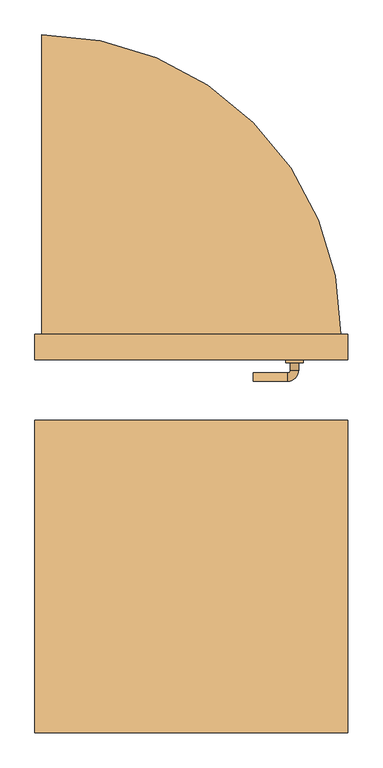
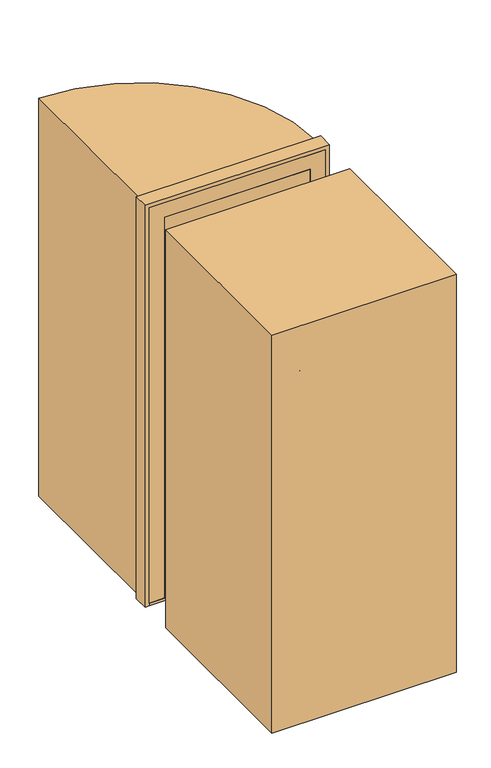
"""IFC4 building model written with IfcOpenShell, lengths in millimetres: door geometry, Дверь_Противопожарная_Металлическая_Однопольная_Глухая : 910 х 2100(h)_Пр_EI30."""

from ifc_helpers import new_model, si_unit, point, frame, frame_2d, origin, origin_with_axes, place, context, project, spatial, polyline, circle_curve, ellipse_curve, trimmed, segment, composite_curve, outline, extrude, source, transform, mapped, element, save
from ifc_brep_helpers import plane_surface, cylinder_surface, revolved_surface, advanced_brep


def door_7db46ef5(model_context):
    return source(origin(), model_context, "Body", "SolidModel", [
        extrude(outline(composite_curve([segment(trimmed(circle_curve(frame_2d((-435.0, 125.0)), 870.0), [point((-435.0, 995.0))], [point((435.0, 125.0))], False, "CARTESIAN"), True, "CONTINUOUS"), segment(polyline([(435.0, 125.0), (-435.0, 125.0), (-435.0, 995.0)]), True, "CONTINUOUS")], self_intersect=False)), origin_with_axes(), (0.0, 0.0, 1.0), 2080.0),
        extrude(outline(polyline([(-455.0, -1035.0), (-455.0, -125.0), (455.0, -125.0), (455.0, -1035.0), (-455.0, -1035.0)])), origin_with_axes(), (0.0, 0.0, 1.0), 2080.0),
        advanced_brep(
        [(180.0, 187.0, 1000.0), (180.0, 163.0, 1000.0), (280.0, 163.0, 1000.0), (280.0, 187.0, 1000.0), (288.0, 155.0, 1000.0), (312.0, 155.0, 1000.0), (312.0, 20.0, 1000.0), (312.0, 42.0, 1000.0), (288.0, 42.0, 1000.0), (288.0, 20.0, 1000.0), (288.0, 133.0, 1000.0), (312.0, 133.0, 1000.0), (280.0, 12.0, 1000.0), (280.0, -12.0, 1000.0), (180.0, -12.0, 1000.0), (180.0, 12.0, 1000.0), (325.0, 133.0, 1000.0), (275.0, 133.0, 1000.0), (325.0, 42.0, 1000.0), (275.0, 42.0, 1000.0)],
        [
            (0, 1, circle_curve(frame((180.0, 175.0, 1000.0), z_axis=(-1.0, 0.0, 0.0), x_axis=(0.0, -1.0, 0.0)), 12.0)),
            (1, 0, circle_curve(frame((180.0, 175.0, 1000.0), z_axis=(-1.0, 0.0, 0.0), x_axis=(0.0, -1.0, 0.0)), 12.0)),
            (1, 2),
            (2, 3, circle_curve(frame((280.0, 175.0, 1000.0), z_axis=(-1.0, 0.0, 0.0), x_axis=(0.0, -1.0, 0.0)), 12.0)),
            (3, 0),
            (3, 2, circle_curve(frame((280.0, 175.0, 1000.0), z_axis=(-1.0, 0.0, 0.0), x_axis=(0.0, -1.0, 0.0)), 12.0)),
            (2, 4, circle_curve(frame((280.0, 155.0, 1000.0), z_axis=(0.0, 0.0, -1.0), x_axis=(0.0, 1.0, 0.0)), 8.0)),
            (4, 5, circle_curve(frame((300.0, 155.0, 1000.0), z_axis=(0.0, 1.0, 0.0), x_axis=(-1.0, 0.0, 0.0)), 12.0)),
            (5, 3, circle_curve(frame((280.0, 155.0, 1000.0), z_axis=(0.0, 0.0, 1.0), x_axis=(0.0, 1.0, 0.0)), 32.0)),
            (5, 4, circle_curve(frame((300.0, 155.0, 1000.0), z_axis=(0.0, 1.0, 0.0), x_axis=(-1.0, 0.0, 0.0)), 12.0)),
            (6, 7),
            (7, 8, circle_curve(frame((300.0, 42.0, 1000.0), z_axis=(0.0, -1.0, 0.0), x_axis=(-1.0, 0.0, 0.0)), 12.0)),
            (8, 9),
            (9, 6, circle_curve(frame((300.0, 20.0, 1000.0), z_axis=(0.0, 1.0, 0.0), x_axis=(-1.0, 0.0, 0.0)), 12.0)),
            (4, 10),
            (10, 11, circle_curve(frame((300.0, 133.0, 1000.0), z_axis=(0.0, 1.0, 0.0), x_axis=(-1.0, 0.0, 0.0)), 12.0)),
            (11, 5),
            (11, 10, circle_curve(frame((300.0, 133.0, 1000.0), z_axis=(0.0, 1.0, 0.0), x_axis=(-1.0, 0.0, 0.0)), 12.0)),
            (8, 7, circle_curve(frame((300.0, 42.0, 1000.0), z_axis=(0.0, -1.0, 0.0), x_axis=(-1.0, 0.0, 0.0)), 12.0)),
            (6, 9, circle_curve(frame((300.0, 20.0, 1000.0), z_axis=(0.0, 1.0, 0.0), x_axis=(-1.0, 0.0, 0.0)), 12.0)),
            (9, 12, circle_curve(frame((280.0, 20.0, 1000.0), z_axis=(0.0, 0.0, -1.0), x_axis=(1.0, 0.0, 0.0)), 8.0)),
            (12, 13, circle_curve(frame((280.0, 0.0, 1000.0), z_axis=(1.0, 0.0, 0.0), x_axis=(0.0, 1.0, 0.0)), 12.0)),
            (13, 6, circle_curve(frame((280.0, 20.0, 1000.0), z_axis=(0.0, 0.0, 1.0), x_axis=(1.0, 0.0, 0.0)), 32.0)),
            (13, 12, circle_curve(frame((280.0, 0.0, 1000.0), z_axis=(1.0, 0.0, 0.0), x_axis=(0.0, 1.0, 0.0)), 12.0)),
            (14, 15, circle_curve(frame((180.0, 0.0, 1000.0), z_axis=(-1.0, 0.0, 0.0), x_axis=(0.0, 1.0, 0.0)), 12.0)),
            (15, 14, circle_curve(frame((180.0, 0.0, 1000.0), z_axis=(-1.0, 0.0, 0.0), x_axis=(0.0, 1.0, 0.0)), 12.0)),
            (12, 15),
            (14, 13),
            (16, 17, circle_curve(frame((300.0, 133.0, 1000.0), z_axis=(0.0, 1.0, 0.0), x_axis=(-1.0, 0.0, 0.0)), 25.0)),
            (17, 16, circle_curve(frame((300.0, 133.0, 1000.0), z_axis=(0.0, 1.0, 0.0), x_axis=(-1.0, 0.0, 0.0)), 25.0)),
            (18, 19, circle_curve(frame((300.0, 42.0, 1000.0), z_axis=(0.0, -1.0, 0.0), x_axis=(-1.0, 0.0, 0.0)), 25.0)),
            (19, 18, circle_curve(frame((300.0, 42.0, 1000.0), z_axis=(0.0, -1.0, 0.0), x_axis=(-1.0, 0.0, 0.0)), 25.0)),
            (16, 18),
            (19, 17),
        ],
        [
            plane_surface(frame((180.0, 175.0, 1000.0), z_axis=(-1.0, 0.0, 0.0), x_axis=(0.0, 0.0, 1.0))),
            cylinder_surface(frame((180.0, 175.0, 1000.0), z_axis=(-1.0, 0.0, 0.0), x_axis=(0.0, -1.0, 0.0)), 12.0),
            revolved_surface(trimmed(ellipse_curve(frame((280.0, 175.0, 1000.0), z_axis=(1.0, 0.0, 0.0), x_axis=(0.0, -1.0, 0.0)), 12.0, 12.0), [point((280.0, 187.0, 1000.0))], [point((280.0, 163.0, 1000.0))], True, "CARTESIAN"), (280.0, 155.0, 1000.0), (0.0, 0.0, 1.0)),
            revolved_surface(trimmed(ellipse_curve(frame((280.0, 175.0, 1000.0), z_axis=(1.0, 0.0, 0.0), x_axis=(0.0, -1.0, 0.0)), 12.0, 12.0), [point((280.0, 163.0, 1000.0))], [point((280.0, 187.0, 1000.0))], True, "CARTESIAN"), (280.0, 155.0, 1000.0), (0.0, 0.0, 1.0)),
            cylinder_surface(frame((300.0, 155.0, 1000.0), z_axis=(0.0, 1.0, 0.0), x_axis=(-1.0, 0.0, 0.0)), 12.0),
            revolved_surface(trimmed(ellipse_curve(frame((300.0, 20.0, 1000.0), z_axis=(0.0, -1.0, 0.0), x_axis=(-1.0, 0.0, 0.0)), 12.0, 12.0), [point((312.0, 20.0, 1000.0))], [point((288.0, 20.0, 1000.0))], True, "CARTESIAN"), (280.0, 20.0, 1000.0), (0.0, 0.0, 1.0)),
            revolved_surface(trimmed(ellipse_curve(frame((300.0, 20.0, 1000.0), z_axis=(0.0, -1.0, 0.0), x_axis=(-1.0, 0.0, 0.0)), 12.0, 12.0), [point((288.0, 20.0, 1000.0))], [point((312.0, 20.0, 1000.0))], True, "CARTESIAN"), (280.0, 20.0, 1000.0), (0.0, 0.0, 1.0)),
            plane_surface(frame((180.0, 0.0, 1000.0), z_axis=(-1.0, 0.0, 0.0), x_axis=(0.0, 0.0, 1.0))),
            cylinder_surface(frame((280.0, 0.0, 1000.0), z_axis=(1.0, 0.0, 0.0), x_axis=(0.0, 1.0, 0.0)), 12.0),
            plane_surface(frame((275.0, 133.0, 1000.0), z_axis=(0.0, 1.0, 0.0), x_axis=(0.0, 0.0, -1.0))),
            plane_surface(frame((275.0, 42.0, 1000.0), z_axis=(0.0, -1.0, 0.0), x_axis=(0.0, 0.0, 1.0))),
            cylinder_surface(frame((300.0, 133.0, 1000.0), z_axis=(0.0, -1.0, 0.0), x_axis=(-1.0, 0.0, 0.0)), 25.0),
        ],
        [
            (0, [[1, 2]]),
            (1, [[3, 4, 5, -2]]),
            (1, [[-5, 6, -3, -1]]),
            (2, [[7, 8, 9, -4]]),
            (3, [[-9, 10, -7, -6]]),
            (4, [[11, 12, 13, 14]]),
            (4, [[15, 16, 17, -8]]),
            (4, [[-17, 18, -15, -10]]),
            (4, [[-13, 19, -11, 20]]),
            (5, [[21, 22, 23, -14]]),
            (6, [[-23, 24, -21, -20]]),
            (7, [[25, 26]]),
            (8, [[27, -25, 28, -22]]),
            (8, [[-28, -26, -27, -24]]),
            (9, [[29, 30], [-18, -16]]),
            (10, [[31, 32], [-19, -12]]),
            (11, [[33, -32, 34, -29]]),
            (11, [[-34, -31, -33, -30]]),
        ],
    ),
        extrude(outline(composite_curve([segment(trimmed(circle_curve(frame_2d((900.0, 300.0)), 25.0), [point((900.0, 325.0))], [point((900.0, 275.0))], False, "CARTESIAN"), True, "CONTINUOUS"), segment(trimmed(circle_curve(frame_2d((900.0, 300.0)), 25.0), [point((900.0, 275.0))], [point((900.0, 325.0))], False, "CARTESIAN"), True, "CONTINUOUS")], self_intersect=False)), frame((0.0, 42.0, 0.0), z_axis=(0.0, 1.0, 0.0), x_axis=(0.0, 0.0, 1.0)), (0.0, 0.0, 1.0), 91.0),
        extrude(outline(polyline([(15.0, -435.0), (15.0, -360.0), (2005.0, -360.0), (2005.0, 360.0), (15.0, 360.0), (15.0, 435.0), (2080.0, 435.0), (2080.0, -435.0), (15.0, -435.0)])), frame((0.0, 50.0, 0.0), z_axis=(0.0, 1.0, 0.0), x_axis=(0.0, 0.0, 1.0)), (0.0, 0.0, 1.0), 75.0),
        extrude(outline(polyline([(0.0, 455.0), (2100.0, 455.0), (2100.0, -455.0), (0.0, -455.0), (0.0, -435.0), (2080.0, -435.0), (2080.0, 435.0), (0.0, 435.0), (0.0, 455.0)])), frame((0.0, 50.0, 0.0), z_axis=(0.0, 1.0, 0.0), x_axis=(0.0, 0.0, 1.0)), (0.0, 0.0, 1.0), 75.0),
        extrude(outline(polyline([(435.0, 125.0), (435.0, 50.0), (-435.0, 50.0), (-435.0, 125.0), (435.0, 125.0)])), origin_with_axes(), (0.0, 0.0, 1.0), 15.0),
        extrude(outline(polyline([(360.0, 125.0), (360.0, 50.0), (-360.0, 50.0), (-360.0, 125.0), (360.0, 125.0)])), frame((0.0, 0.0, 15.0), z_axis=(0.0, 0.0, 1.0), x_axis=(1.0, 0.0, 0.0)), (0.0, 0.0, 1.0), 1990.0),
    ])


if __name__ == "__main__":
    model = new_model("IFC4")
    model_context = context("Model", 3, world=origin())
    ifc_project = project(units=[si_unit("LENGTHUNIT", "METRE", prefix="MILLI")], contexts=[model_context])
    site = spatial("IfcSite", under=ifc_project)
    building = spatial("IfcBuilding", under=site)
    placement = place(None, origin())
    door_shape = door_7db46ef5(model_context)
    element("IfcDoor", 1, ObjectType="Дверь_Противопожарная_Металлическая_Однопольная_Глухая : 910 х 2100(h)_Пр_EI30", at=placement, inside=building, context=model_context, shape_type="MappedRepresentation", body=[
        mapped(door_shape, transform((0.0, 0.0, 0.0), x_axis=(1.0, 0.0, 0.0), y_axis=(0.0, 1.0, 0.0), z_axis=(0.0, 0.0, 1.0))),
    ])
    save(model, "model.ifc")
